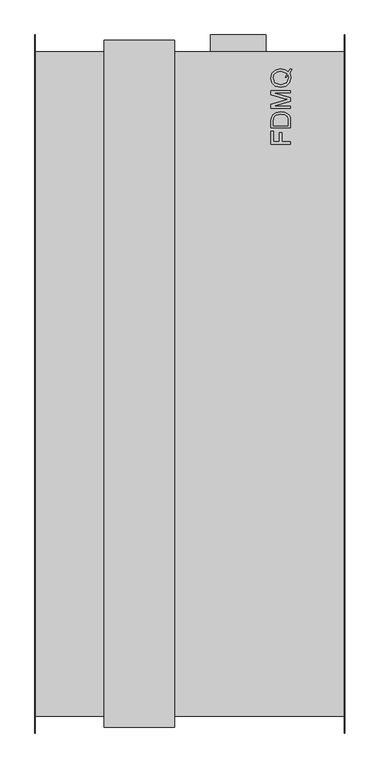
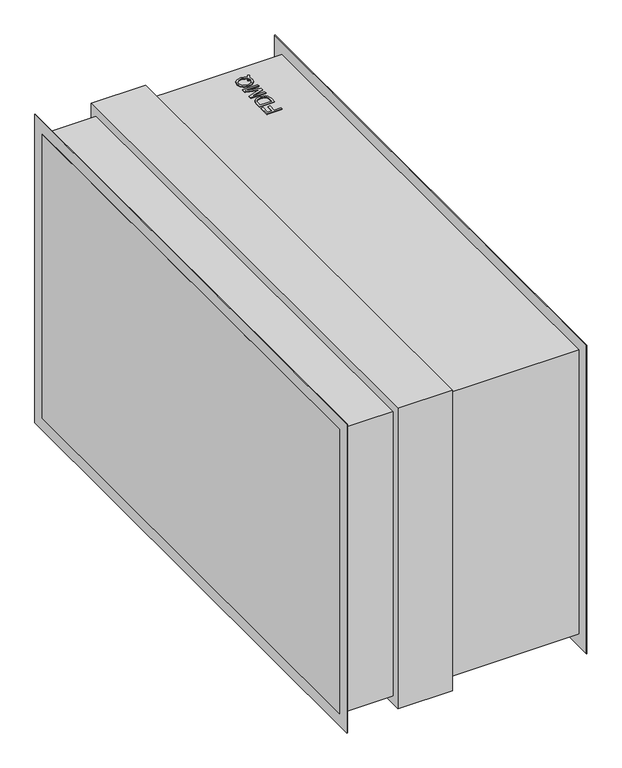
"""IFC4 building model written with IfcOpenShell, lengths in millimetres: damper geometry, Mandik_Fire Damper_FDMQ : FDMQ 1200x700 - .40."""

from ifc_helpers import new_model, si_unit, frame, origin, origin_with_axes, place, context, project, spatial, polyline, outline, extrude, source, transform, mapped, element, save


def damper_dbfca7f7(model_context):
    return source(origin(), model_context, "Body", "SweptSolid", [
        extrude(outline(polyline([(280.0, 600.0), (280.0, -600.0), (-280.0, -600.0), (-280.0, 600.0), (280.0, 600.0)])), frame((0.0, 0.0, -350.0), z_axis=(0.0, 0.0, 1.0), x_axis=(1.0, 0.0, 0.0)), (0.0, 0.0, 1.0), 700.0),
        extrude(outline(polyline([(-279.0, 630.0), (-279.0, -630.0), (-280.0, -630.0), (-280.0, 630.0), (-279.0, 630.0)])), frame((0.0, 0.0, -380.0), z_axis=(0.0, 0.0, 1.0), x_axis=(1.0, 0.0, 0.0)), (0.0, 0.0, 1.0), 760.0),
        extrude(outline(polyline([(280.0, 630.0), (280.0, -630.0), (279.0, -630.0), (279.0, 630.0), (280.0, 630.0)])), frame((0.0, 0.0, -380.0), z_axis=(0.0, 0.0, 1.0), x_axis=(1.0, 0.0, 0.0)), (0.0, 0.0, 1.0), 760.0),
        extrude(outline(polyline([(-27.5, 620.0), (-27.5, -620.0), (-155.0, -620.0), (-155.0, 620.0), (-27.5, 620.0)])), frame((0.0, 0.0, -370.0), z_axis=(0.0, 0.0, 1.0), x_axis=(1.0, 0.0, 0.0)), (0.0, 0.0, 1.0), 740.0),
        extrude(outline(polyline([(37.5, 630.0), (137.5, 630.0), (137.5, 600.0), (37.5, 600.0), (37.5, 630.0)])), origin_with_axes(), (0.0, 0.0, 1.0), 100.0),
        extrude(outline(polyline([(181.9506667, 432.4274351), (146.7909581, 432.4274351), (146.7909581, 456.0503643), (151.1859217, 456.0503643), (151.1859217, 436.8223987), (161.6239602, 436.8223987), (161.6239602, 453.3035121), (166.0189237, 453.3035121), (166.0189237, 436.8223987), (181.9506667, 436.8223987), (181.9506667, 432.4274351)])), frame((0.0, 0.0, 350.0), z_axis=(0.0, 0.0, 1.0), x_axis=(1.0, 0.0, 0.0)), (0.0, 0.0, 1.0), 2.0),
        extrude(outline(polyline([(181.9506667, 462.0934392), (146.7909581, 462.0934392), (146.7909581, 474.2225086), (147.297409, 480.4973492), (149.8124956, 485.6648649), (155.8212348, 489.8280628), (164.1819663, 491.2100729), (171.2765706, 490.2744263), (176.3968748, 487.8709306), (179.5857986, 484.6605471), (181.3497927, 480.4587216), (181.9506667, 474.8062147), (181.9506667, 462.0934392)]), holes=[polyline([(177.5557031, 466.4884028), (177.5557031, 474.2654282), (176.9204935, 479.922227), (175.1264557, 483.184114), (170.7615358, 485.858003), (164.113295, 486.8151093), (155.7868992, 484.9395243), (151.8898026, 480.3771744), (151.1859217, 474.1452534), (151.1859217, 466.4884028), (177.5557031, 466.4884028)])]), frame((0.0, 0.0, 350.0), z_axis=(0.0, 0.0, 1.0), x_axis=(1.0, 0.0, 0.0)), (0.0, 0.0, 1.0), 2.0),
        extrude(outline(polyline([(181.9506667, 497.2531478), (146.7909581, 497.2531478), (146.7909581, 504.7898236), (171.5727156, 512.0003107), (176.7488153, 513.4595759), (171.1435199, 515.030432), (146.7909581, 522.1035765), (146.7909581, 529.6660041), (181.9506667, 529.6660041), (181.9506667, 525.2710405), (151.1859217, 525.2710405), (181.9506667, 516.4381938), (181.9506667, 510.489542), (151.1859217, 501.6481113), (181.9506667, 501.6481113), (181.9506667, 497.2531478)])), frame((0.0, 0.0, 350.0), z_axis=(0.0, 0.0, 1.0), x_axis=(1.0, 0.0, 0.0)), (0.0, 0.0, 1.0), 2.0),
        extrude(outline(polyline([(177.7359653, 563.7698913), (181.4012962, 569.2206762), (184.6202637, 568.0360962), (180.5085692, 560.7998573), (182.5000371, 552.2588637), (180.2038403, 543.7007022), (173.7487376, 537.782094), (164.3793963, 535.709079), (154.9413837, 537.7778021), (148.4648212, 543.6663666), (146.2415877, 552.2159441), (148.5163247, 560.8213171), (154.8855883, 566.6626701), (164.1218789, 568.6713058), (171.8044812, 567.4523901), (177.7359653, 563.7698913)]), holes=[polyline([(171.8903204, 553.4691955), (175.2294626, 560.1474799), (164.3450606, 564.2763422), (157.1302816, 562.8170769), (152.340458, 558.5465801), (150.6365512, 552.2416959), (154.0829924, 543.5547757), (164.3708124, 540.1040426), (174.5556254, 543.5161481), (178.1050735, 552.2331119), (177.2037627, 556.9628481), (175.2552144, 552.3361189), (171.8903204, 553.4691955)])]), frame((0.0, 0.0, 350.0), z_axis=(0.0, 0.0, 1.0), x_axis=(1.0, 0.0, 0.0)), (0.0, 0.0, 1.0), 2.0),
    ])


if __name__ == "__main__":
    model = new_model("IFC4")
    model_context = context("Model", 3, world=origin())
    ifc_project = project(units=[si_unit("LENGTHUNIT", "METRE", prefix="MILLI")], contexts=[model_context])
    site = spatial("IfcSite", under=ifc_project)
    building = spatial("IfcBuilding", under=site)
    placement = place(None, origin())
    damper_shape = damper_dbfca7f7(model_context)
    element("IfcDamper", 1, ObjectType="Mandik_Fire Damper_FDMQ : FDMQ 1200x700 - .40", at=placement, inside=building, context=model_context, shape_type="MappedRepresentation", body=[
        mapped(damper_shape, transform((0.0, 0.0, 0.0), x_axis=(1.0, 0.0, 0.0), y_axis=(0.0, 1.0, 0.0), z_axis=(0.0, 0.0, 1.0))),
    ])
    save(model, "model.ifc")
